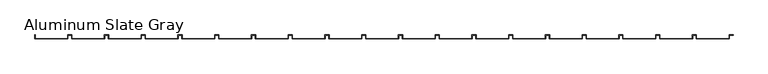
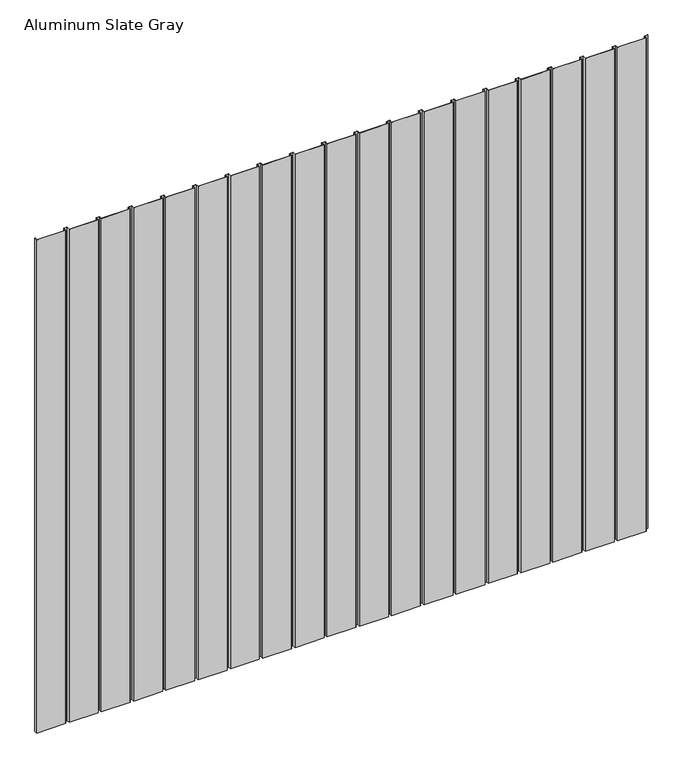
"""IFC4 building model written with IfcOpenShell, lengths in millimetres: proxy geometry, TitanTek VariPanel PLANK 875 : Aluminum Slate Gray."""

from ifc_helpers import new_model, si_unit, origin, origin_with_axes, place, context, project, spatial, polyline, outline, extrude, source, transform, mapped, element, save


def aluminum_slate_gray_5a49ca79(model_context):
    return source(origin(), model_context, "Body", "SweptSolid", [
        extrude(outline(polyline([(4679.95, -0.9921875), (4679.95, -25.4), (4457.7, -25.4), (4457.7, 0.0), (4458.6921875, 0.0), (4458.6921875, -24.4078125), (4678.9578125, -24.4078125), (4678.9578125, 0.0), (4705.35, 0.0), (4705.35, -0.9921875), (4679.95, -0.9921875)])), origin_with_axes(), (0.0, 0.0, 1.0), 4000.0),
        extrude(outline(polyline([(4432.3, -0.9921875), (4432.3, -25.4), (4210.05, -25.4), (4210.05, 0.0), (4211.0421875, 0.0), (4211.0421875, -24.4078125), (4431.3078125, -24.4078125), (4431.3078125, 0.0), (4457.7, 0.0), (4457.7, -0.9921875), (4432.3, -0.9921875)])), origin_with_axes(), (0.0, 0.0, 1.0), 4000.0),
        extrude(outline(polyline([(4184.65, -0.9921875), (4184.65, -25.4), (3962.4, -25.4), (3962.4, 0.0), (3963.3921875, 0.0), (3963.3921875, -24.4078125), (4183.6578125, -24.4078125), (4183.6578125, 0.0), (4210.05, 0.0), (4210.05, -0.9921875), (4184.65, -0.9921875)])), origin_with_axes(), (0.0, 0.0, 1.0), 4000.0),
        extrude(outline(polyline([(3937.0, -0.9921875), (3937.0, -25.4), (3714.75, -25.4), (3714.75, 0.0), (3715.7421875, 0.0), (3715.7421875, -24.4078125), (3936.0078125, -24.4078125), (3936.0078125, 0.0), (3962.4, 0.0), (3962.4, -0.9921875), (3937.0, -0.9921875)])), origin_with_axes(), (0.0, 0.0, 1.0), 4000.0),
        extrude(outline(polyline([(3689.35, -0.9921875), (3689.35, -25.4), (3467.1, -25.4), (3467.1, 0.0), (3468.0921875, 0.0), (3468.0921875, -24.4078125), (3688.3578125, -24.4078125), (3688.3578125, 0.0), (3714.75, 0.0), (3714.75, -0.9921875), (3689.35, -0.9921875)])), origin_with_axes(), (0.0, 0.0, 1.0), 4000.0),
        extrude(outline(polyline([(3441.7, -0.9921875), (3441.7, -25.4), (3219.45, -25.4), (3219.45, 0.0), (3220.4421875, 0.0), (3220.4421875, -24.4078125), (3440.7078125, -24.4078125), (3440.7078125, 0.0), (3467.1, 0.0), (3467.1, -0.9921875), (3441.7, -0.9921875)])), origin_with_axes(), (0.0, 0.0, 1.0), 4000.0),
        extrude(outline(polyline([(3194.05, -0.9921875), (3194.05, -25.4), (2971.8, -25.4), (2971.8, 0.0), (2972.7921875, 0.0), (2972.7921875, -24.4078125), (3193.0578125, -24.4078125), (3193.0578125, 0.0), (3219.45, 0.0), (3219.45, -0.9921875), (3194.05, -0.9921875)])), origin_with_axes(), (0.0, 0.0, 1.0), 4000.0),
        extrude(outline(polyline([(2946.4, -0.9921875), (2946.4, -25.4), (2724.15, -25.4), (2724.15, 0.0), (2725.1421875, 0.0), (2725.1421875, -24.4078125), (2945.4078125, -24.4078125), (2945.4078125, 0.0), (2971.8, 0.0), (2971.8, -0.9921875), (2946.4, -0.9921875)])), origin_with_axes(), (0.0, 0.0, 1.0), 4000.0),
        extrude(outline(polyline([(2698.75, -0.9921875), (2698.75, -25.4), (2476.5, -25.4), (2476.5, 0.0), (2477.4921875, 0.0), (2477.4921875, -24.4078125), (2697.7578125, -24.4078125), (2697.7578125, 0.0), (2724.15, 0.0), (2724.15, -0.9921875), (2698.75, -0.9921875)])), origin_with_axes(), (0.0, 0.0, 1.0), 4000.0),
        extrude(outline(polyline([(2451.1, -0.9921875), (2451.1, -25.4), (2228.85, -25.4), (2228.85, 0.0), (2229.8421875, 0.0), (2229.8421875, -24.4078125), (2450.1078125, -24.4078125), (2450.1078125, 0.0), (2476.5, 0.0), (2476.5, -0.9921875), (2451.1, -0.9921875)])), origin_with_axes(), (0.0, 0.0, 1.0), 4000.0),
        extrude(outline(polyline([(2203.45, -0.9921875), (2203.45, -25.4), (1981.2, -25.4), (1981.2, 0.0), (1982.1921875, 0.0), (1982.1921875, -24.4078125), (2202.4578125, -24.4078125), (2202.4578125, 0.0), (2228.85, 0.0), (2228.85, -0.9921875), (2203.45, -0.9921875)])), origin_with_axes(), (0.0, 0.0, 1.0), 4000.0),
        extrude(outline(polyline([(1955.8, -0.9921875), (1955.8, -25.4), (1733.55, -25.4), (1733.55, 0.0), (1734.5421875, 0.0), (1734.5421875, -24.4078125), (1954.8078125, -24.4078125), (1954.8078125, 0.0), (1981.2, 0.0), (1981.2, -0.9921875), (1955.8, -0.9921875)])), origin_with_axes(), (0.0, 0.0, 1.0), 4000.0),
        extrude(outline(polyline([(1708.15, -0.9921875), (1708.15, -25.4), (1485.9, -25.4), (1485.9, 0.0), (1486.8921875, 0.0), (1486.8921875, -24.4078125), (1707.1578125, -24.4078125), (1707.1578125, 0.0), (1733.55, 0.0), (1733.55, -0.9921875), (1708.15, -0.9921875)])), origin_with_axes(), (0.0, 0.0, 1.0), 4000.0),
        extrude(outline(polyline([(1460.5, -0.9921875), (1460.5, -25.4), (1238.25, -25.4), (1238.25, 0.0), (1239.2421875, 0.0), (1239.2421875, -24.4078125), (1459.5078125, -24.4078125), (1459.5078125, 0.0), (1485.9, 0.0), (1485.9, -0.9921875), (1460.5, -0.9921875)])), origin_with_axes(), (0.0, 0.0, 1.0), 4000.0),
        extrude(outline(polyline([(1212.85, -0.9921875), (1212.85, -25.4), (990.6, -25.4), (990.6, 0.0), (991.5921875, 0.0), (991.5921875, -24.4078125), (1211.8578125, -24.4078125), (1211.8578125, 0.0), (1238.25, 0.0), (1238.25, -0.9921875), (1212.85, -0.9921875)])), origin_with_axes(), (0.0, 0.0, 1.0), 4000.0),
        extrude(outline(polyline([(965.2, -0.9921875), (965.2, -25.4), (742.95, -25.4), (742.95, 0.0), (743.9421875, 0.0), (743.9421875, -24.4078125), (964.2078125, -24.4078125), (964.2078125, 0.0), (990.6, 0.0), (990.6, -0.9921875), (965.2, -0.9921875)])), origin_with_axes(), (0.0, 0.0, 1.0), 4000.0),
        extrude(outline(polyline([(717.55, -0.9921875), (717.55, -25.4), (495.3, -25.4), (495.3, 0.0), (496.2921875, 0.0), (496.2921875, -24.4078125), (716.5578125, -24.4078125), (716.5578125, 0.0), (742.95, 0.0), (742.95, -0.9921875), (717.55, -0.9921875)])), origin_with_axes(), (0.0, 0.0, 1.0), 4000.0),
        extrude(outline(polyline([(469.9, -0.9921875), (469.9, -25.4), (247.65, -25.4), (247.65, 0.0), (248.6421875, 0.0), (248.6421875, -24.4078125), (468.9078125, -24.4078125), (468.9078125, 0.0), (495.3, 0.0), (495.3, -0.9921875), (469.9, -0.9921875)])), origin_with_axes(), (0.0, 0.0, 1.0), 4000.0),
        extrude(outline(polyline([(222.25, -0.9921875), (222.25, -25.4), (0.0, -25.4), (0.0, 0.0), (0.9921875, 0.0), (0.9921875, -24.4078125), (221.2578125, -24.4078125), (221.2578125, 0.0), (247.65, 0.0), (247.65, -0.9921875), (222.25, -0.9921875)])), origin_with_axes(), (0.0, 0.0, 1.0), 4000.0),
    ])


if __name__ == "__main__":
    model = new_model("IFC4")
    model_context = context("Model", 3, world=origin())
    ifc_project = project(units=[si_unit("LENGTHUNIT", "METRE", prefix="MILLI")], contexts=[model_context])
    site = spatial("IfcSite", under=ifc_project)
    building = spatial("IfcBuilding", under=site)
    placement = place(None, origin())
    aluminum_slate_gray_shape = aluminum_slate_gray_5a49ca79(model_context)
    element("IfcBuildingElementProxy", 1, Name="TitanTek VariPanel PLANK 875 : Aluminum Slate Gray", ObjectType="TitanTek VariPanel PLANK 875 : Aluminum Slate Gray", at=placement, inside=building, context=model_context, shape_type="MappedRepresentation", body=[
        mapped(aluminum_slate_gray_shape, transform((0.0, 0.0, 0.0), x_axis=(1.0, 0.0, 0.0), y_axis=(0.0, 1.0, 0.0), z_axis=(0.0, 0.0, 1.0))),
    ])
    save(model, "model.ifc")
